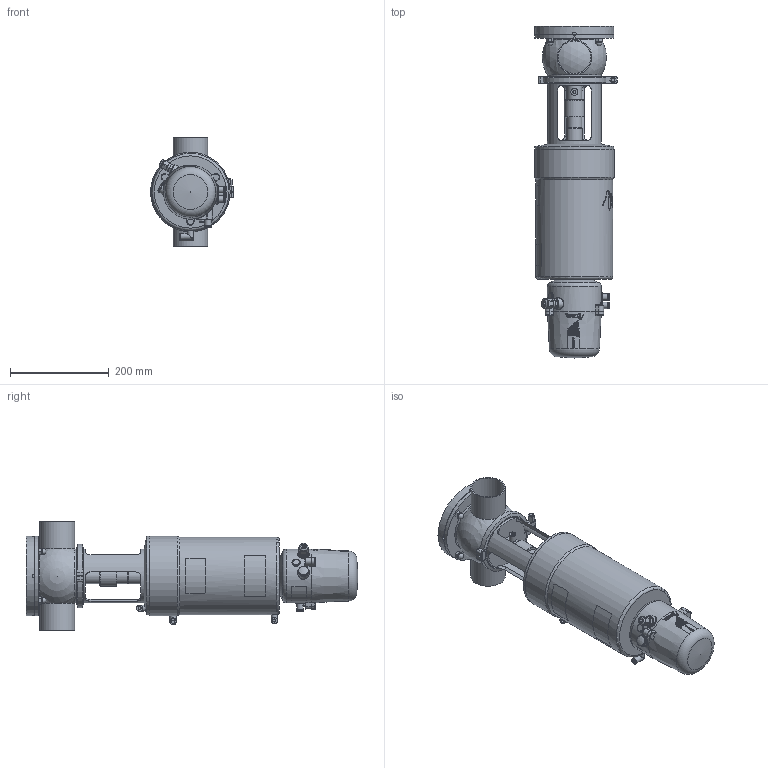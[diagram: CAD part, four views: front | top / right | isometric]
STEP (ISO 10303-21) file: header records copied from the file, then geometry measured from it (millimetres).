
FILE_DESCRIPTION (( 'STEP AP214' ), '1' );
FILE_NAME ('INNOVA T T W DIN 065 & C-TOP S_10.252.16.0008.STEP', '2024-08-20T12:21:20', ( '' ), ( '' ), 'SwSTEP 2.0', 'SolidWorks 2023', '' );
FILE_SCHEMA (( 'AUTOMOTIVE_DESIGN' ));
Length unit declared in the file: millimetre
Products named in the file (7): INNOVA T T W DIN 065 & C-TOP S_10.252.16.0008; 10.248.15.0003_DIN 065 _ OD 2½"; 10.426.15.0001_C-TOP S - 3 EV; 10.252.15.0001_DIN 065; 10.240.15.0001_DN 065; 10.240.15.0007_DIN 065; 10.250.15.0002_Type T T2
Assembly tree (6 placements, depth 2):
  INNOVA T T W DIN 065 & C-TOP S_10.252.16.0008
    10.240.15.0007_DIN 065
    10.248.15.0003_DIN 065 _ OD 2½"
    10.252.15.0001_DIN 065
    10.250.15.0002_Type T T2
    10.240.15.0001_DN 065
    10.426.15.0001_C-TOP S - 3 EV
Bounding box: 167.5 x 671.33 x 220 mm (x, y, z)
Volume: 8519861.4 mm3; surface area: 569441.5 mm2
Topology: 6 solids, 6 shells, 1205 faces, 2898 edges, 1930 vertices
Faces by surface type: plane 421, cylinder 382, cone 196, bspline 162, torus 33, sphere 11
Full cylindrical faces by diameter (mm): 0.371 x17, 0.512 x16, 0.658 x16, 0.795 x16, 0.94 x15, 1.098 x15, 1.241 x13, 1.382 x13, 1.523 x11, 1.669 x10, 2.201 x1, 4.2 x2, 5 x1, 5.5 x2, 6 x5, 6.15 x3, 8 x3, 10 x1, 10.5 x3, 11 x4, 12 x1, 12.5 x13, 13 x6, 13.5 x2, 14 x2, 17 x3, 20 x2, 22 x2, 30.5 x2, 32 x1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
Entity records: 61736 total; most frequent: CARTESIAN_POINT 29371, ORIENTED_EDGE 4894, DIRECTION 4037, EDGE_CURVE 2447, VERTEX_POINT 1743, EDGE_LOOP 1704, AXIS2_PLACEMENT_3D 1635, FACE_OUTER_BOUND 1438
